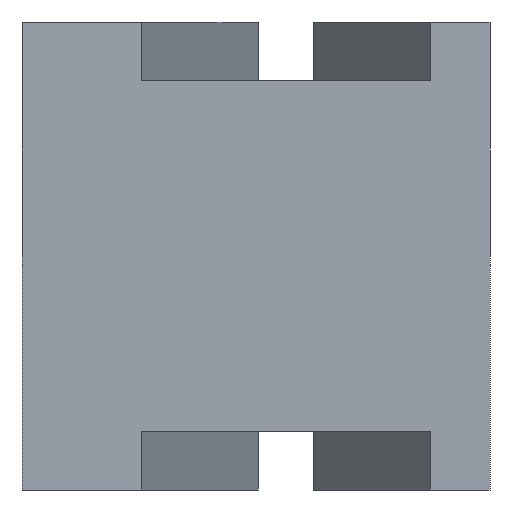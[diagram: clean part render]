
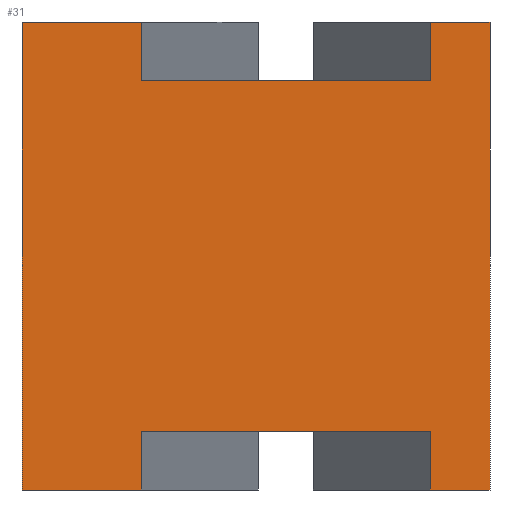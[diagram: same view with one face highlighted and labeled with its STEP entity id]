
A CAD part, left-side view. The second image highlights one B-rep face of the part: STEP entity #31.
In plain terms, the highlighted planar face has unit normal (-1, 0, 0).
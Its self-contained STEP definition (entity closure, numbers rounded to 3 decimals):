
#2 = VERTEX_POINT ( 'NONE', #91 ) ;
#6 = EDGE_CURVE ( 'NONE', #267, #457, #352, .T. ) ;
#8 = ORIENTED_EDGE ( 'NONE', *, *, #96, .F. ) ;
#14 = EDGE_CURVE ( 'NONE', #271, #380, #170, .T. ) ;
#21 = LINE ( 'NONE', #443, #162 ) ;
#24 = ORIENTED_EDGE ( 'NONE', *, *, #347, .T. ) ;
#31 = ADVANCED_FACE ( 'NONE', ( #354 ), #466, .F. ) ;
#64 = CARTESIAN_POINT ( 'NONE',  ( -50., 19.802, 5. ) ) ;
#75 = EDGE_CURVE ( 'NONE', #457, #445, #315, .T. ) ;
#76 = CARTESIAN_POINT ( 'NONE',  ( -50., 19.802, 0. ) ) ;
#84 = VECTOR ( 'NONE', #382, 1000. ) ;
#85 = VERTEX_POINT ( 'NONE', #424 ) ;
#91 = CARTESIAN_POINT ( 'NONE',  ( -50., -4.901, 0. ) ) ;
#96 = EDGE_CURVE ( 'NONE', #85, #180, #218, .T. ) ;
#100 = VECTOR ( 'NONE', #190, 1000. ) ;
#106 = CARTESIAN_POINT ( 'NONE',  ( -50., 19.802, 40. ) ) ;
#114 = VECTOR ( 'NONE', #302, 1000. ) ;
#116 = EDGE_CURVE ( 'NONE', #2, #343, #21, .T. ) ;
#121 = VERTEX_POINT ( 'NONE', #408 ) ;
#125 = DIRECTION ( 'NONE',  ( 0., -1., 0. ) ) ;
#133 = CARTESIAN_POINT ( 'NONE',  ( -50., -10., 40. ) ) ;
#144 = ORIENTED_EDGE ( 'NONE', *, *, #14, .T. ) ;
#145 = LINE ( 'NONE', #259, #179 ) ;
#149 = DIRECTION ( 'NONE',  ( 0., 0., 1. ) ) ;
#151 = AXIS2_PLACEMENT_3D ( 'NONE', #133, #394, #282 ) ;
#156 = CARTESIAN_POINT ( 'NONE',  ( -50., 19.802, 40. ) ) ;
#162 = VECTOR ( 'NONE', #438, 1000. ) ;
#163 = DIRECTION ( 'NONE',  ( 0., 0., -1. ) ) ;
#170 = LINE ( 'NONE', #359, #327 ) ;
#179 = VECTOR ( 'NONE', #225, 1000. ) ;
#180 = VERTEX_POINT ( 'NONE', #106 ) ;
#181 = CARTESIAN_POINT ( 'NONE',  ( -50., -10., 40. ) ) ;
#183 = CARTESIAN_POINT ( 'NONE',  ( -50., 19.802, 35. ) ) ;
#190 = DIRECTION ( 'NONE',  ( 0., -1., 0. ) ) ;
#191 = EDGE_LOOP ( 'NONE', ( #24, #353, #417, #420, #209, #455, #216, #495, #8, #301, #144, #488 ) ) ;
#195 = LINE ( 'NONE', #350, #484 ) ;
#197 = DIRECTION ( 'NONE',  ( 0., 0., -1. ) ) ;
#205 = DIRECTION ( 'NONE',  ( 0., -1., 0. ) ) ;
#207 = CARTESIAN_POINT ( 'NONE',  ( -50., -10., 40. ) ) ;
#209 = ORIENTED_EDGE ( 'NONE', *, *, #6, .F. ) ;
#216 = ORIENTED_EDGE ( 'NONE', *, *, #305, .F. ) ;
#218 = LINE ( 'NONE', #181, #467 ) ;
#225 = DIRECTION ( 'NONE',  ( 0., -1., 0. ) ) ;
#231 = VERTEX_POINT ( 'NONE', #64 ) ;
#259 = CARTESIAN_POINT ( 'NONE',  ( -50., -10., 0. ) ) ;
#267 = VERTEX_POINT ( 'NONE', #296 ) ;
#268 = CARTESIAN_POINT ( 'NONE',  ( -50., 19.802, 5. ) ) ;
#271 = VERTEX_POINT ( 'NONE', #482 ) ;
#275 = DIRECTION ( 'NONE',  ( 0., 0., -1. ) ) ;
#279 = VERTEX_POINT ( 'NONE', #183 ) ;
#282 = DIRECTION ( 'NONE',  ( 0., 1., 0. ) ) ;
#283 = EDGE_CURVE ( 'NONE', #380, #231, #378, .T. ) ;
#285 = CARTESIAN_POINT ( 'NONE',  ( -50., -10., 40. ) ) ;
#287 = DIRECTION ( 'NONE',  ( 0., -1., 0. ) ) ;
#293 = EDGE_CURVE ( 'NONE', #180, #279, #348, .T. ) ;
#296 = CARTESIAN_POINT ( 'NONE',  ( -50., -4.901, 40. ) ) ;
#301 = ORIENTED_EDGE ( 'NONE', *, *, #454, .T. ) ;
#302 = DIRECTION ( 'NONE',  ( 0., 0., -1. ) ) ;
#305 = EDGE_CURVE ( 'NONE', #279, #121, #446, .T. ) ;
#309 = CARTESIAN_POINT ( 'NONE',  ( -50., -4.901, 5. ) ) ;
#315 = LINE ( 'NONE', #460, #366 ) ;
#324 = CARTESIAN_POINT ( 'NONE',  ( -50., 30., 40. ) ) ;
#327 = VECTOR ( 'NONE', #205, 1000. ) ;
#328 = VECTOR ( 'NONE', #149, 1000. ) ;
#343 = VERTEX_POINT ( 'NONE', #309 ) ;
#347 = EDGE_CURVE ( 'NONE', #231, #343, #411, .T. ) ;
#348 = LINE ( 'NONE', #156, #114 ) ;
#350 = CARTESIAN_POINT ( 'NONE',  ( -50., -4.901, 40. ) ) ;
#352 = LINE ( 'NONE', #285, #472 ) ;
#353 = ORIENTED_EDGE ( 'NONE', *, *, #116, .F. ) ;
#354 = FACE_OUTER_BOUND ( 'NONE', #191, .T. ) ;
#359 = CARTESIAN_POINT ( 'NONE',  ( -50., -10., 0. ) ) ;
#360 = VECTOR ( 'NONE', #163, 1000. ) ;
#366 = VECTOR ( 'NONE', #275, 1000. ) ;
#372 = CARTESIAN_POINT ( 'NONE',  ( -50., 19.802, 0. ) ) ;
#377 = EDGE_CURVE ( 'NONE', #2, #445, #145, .T. ) ;
#378 = LINE ( 'NONE', #76, #328 ) ;
#380 = VERTEX_POINT ( 'NONE', #372 ) ;
#382 = DIRECTION ( 'NONE',  ( 0., -1., 0. ) ) ;
#386 = CARTESIAN_POINT ( 'NONE',  ( -50., -10., 0. ) ) ;
#394 = DIRECTION ( 'NONE',  ( 1., 0., 0. ) ) ;
#408 = CARTESIAN_POINT ( 'NONE',  ( -50., -4.901, 35. ) ) ;
#411 = LINE ( 'NONE', #268, #100 ) ;
#417 = ORIENTED_EDGE ( 'NONE', *, *, #377, .T. ) ;
#420 = ORIENTED_EDGE ( 'NONE', *, *, #75, .F. ) ;
#424 = CARTESIAN_POINT ( 'NONE',  ( -50., 30., 40. ) ) ;
#438 = DIRECTION ( 'NONE',  ( 0., 0., 1. ) ) ;
#443 = CARTESIAN_POINT ( 'NONE',  ( -50., -4.901, 0. ) ) ;
#445 = VERTEX_POINT ( 'NONE', #386 ) ;
#446 = LINE ( 'NONE', #492, #84 ) ;
#454 = EDGE_CURVE ( 'NONE', #85, #271, #499, .T. ) ;
#455 = ORIENTED_EDGE ( 'NONE', *, *, #497, .T. ) ;
#457 = VERTEX_POINT ( 'NONE', #207 ) ;
#460 = CARTESIAN_POINT ( 'NONE',  ( -50., -10., 40. ) ) ;
#466 = PLANE ( 'NONE',  #151 ) ;
#467 = VECTOR ( 'NONE', #287, 1000. ) ;
#472 = VECTOR ( 'NONE', #125, 1000. ) ;
#482 = CARTESIAN_POINT ( 'NONE',  ( -50., 30., 0. ) ) ;
#484 = VECTOR ( 'NONE', #197, 1000. ) ;
#488 = ORIENTED_EDGE ( 'NONE', *, *, #283, .T. ) ;
#492 = CARTESIAN_POINT ( 'NONE',  ( -50., 19.802, 35. ) ) ;
#495 = ORIENTED_EDGE ( 'NONE', *, *, #293, .F. ) ;
#497 = EDGE_CURVE ( 'NONE', #267, #121, #195, .T. ) ;
#499 = LINE ( 'NONE', #324, #360 ) ;
